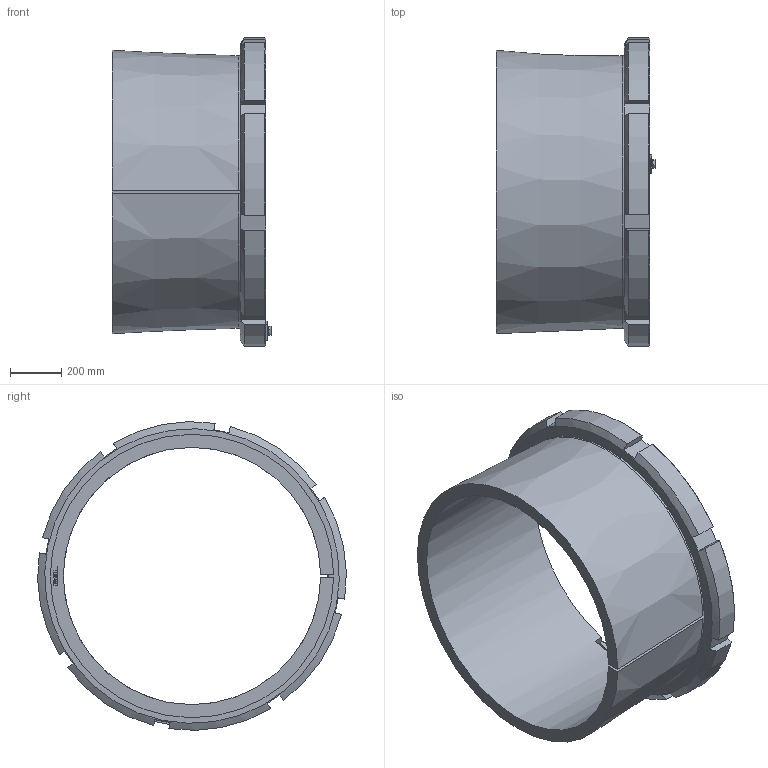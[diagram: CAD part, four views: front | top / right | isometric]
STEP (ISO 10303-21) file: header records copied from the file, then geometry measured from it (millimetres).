
FILE_DESCRIPTION( ( 'STEP AP203' ), ' ' );
FILE_NAME( 'p:/temp/worker_330/4304_4244/app_90_02016102820441399307805192d056f_000000_00_00_000000/format_0/BGL H 31_1060TL+231_1060K.stp', '2016-10-28T18:44:16', ( '' ), ( '' ), ' ', 'PARTsolutions', ' ' );
FILE_SCHEMA( ( 'CONFIG_CONTROL_DESIGN' ) );
Length unit declared in the file: millimetre
Products named in the file (6): BGL H 31/1060TL+231/1060K; _BGLH31/1060TLB; _BGL HM 30/1060; _BGLH31/1060TL+H-Not Available; _BGL MS 30/1000part; _BGL MS 30/1000HHS
Assembly tree (5 placements, depth 2):
  BGL H 31/1060TL+231/1060K
    _BGLH31/1060TLB
    _BGL HM 30/1060
    _BGLH31/1060TL+H-Not Available
    _BGL MS 30/1000part
    _BGL MS 30/1000HHS
Bounding box: 619.92 x 1199.74 x 1199.74 mm (x, y, z)
Volume: 98679110.5 mm3; surface area: 5396639.3 mm2
Topology: 4 solids, 4 shells, 328 faces, 852 edges, 560 vertices
Faces by surface type: plane 224, cylinder 74, cone 30
Full cylindrical faces by diameter (mm): 20 x9, 22 x1, 33.6 x1, 1052 x1
Entity records: 10222 total; most frequent: CARTESIAN_POINT 2028, ORIENTED_EDGE 1648, DIRECTION 1629, EDGE_CURVE 824, LINE 567, VECTOR 567, VERTEX_POINT 555, AXIS2_PLACEMENT_3D 531
